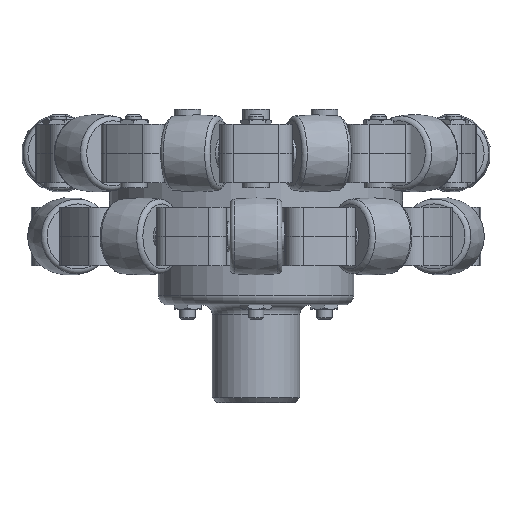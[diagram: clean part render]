
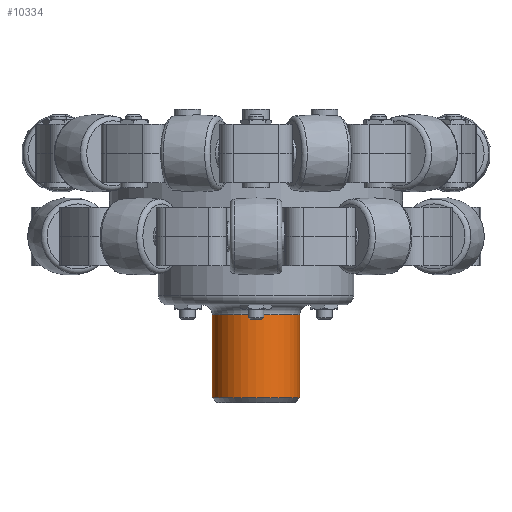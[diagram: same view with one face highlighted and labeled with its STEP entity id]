
A CAD part, front view. The second image highlights one B-rep face of the part: STEP entity #10334.
In plain terms, the highlighted cylindrical face has radius 9 mm (diameter 18 mm), a full revolution.
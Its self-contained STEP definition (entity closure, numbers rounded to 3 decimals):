
#614=CYLINDRICAL_SURFACE('',#11585,9.);
#1187=CIRCLE('',#11583,9.);
#1188=CIRCLE('',#11584,9.);
#1189=CIRCLE('',#11586,9.);
#1190=CIRCLE('',#11587,9.);
#1689=FACE_OUTER_BOUND('',#2336,.T.);
#2336=EDGE_LOOP('',(#9228,#9229,#9230,#9231,#9232,#9233));
#3264=LINE('',#17517,#4204);
#4204=VECTOR('',#14453,9.);
#5153=VERTEX_POINT('',#17510);
#5154=VERTEX_POINT('',#17512);
#5155=VERTEX_POINT('',#17516);
#5156=VERTEX_POINT('',#17518);
#6528=EDGE_CURVE('',#5153,#5154,#1187,.T.);
#6529=EDGE_CURVE('',#5154,#5153,#1188,.T.);
#6530=EDGE_CURVE('',#5154,#5155,#3264,.T.);
#6531=EDGE_CURVE('',#5156,#5155,#1189,.T.);
#6532=EDGE_CURVE('',#5155,#5156,#1190,.T.);
#9228=ORIENTED_EDGE('',*,*,#6528,.F.);
#9229=ORIENTED_EDGE('',*,*,#6529,.F.);
#9230=ORIENTED_EDGE('',*,*,#6530,.T.);
#9231=ORIENTED_EDGE('',*,*,#6531,.F.);
#9232=ORIENTED_EDGE('',*,*,#6532,.F.);
#9233=ORIENTED_EDGE('',*,*,#6530,.F.);
#10334=ADVANCED_FACE('',(#1689),#614,.T.);
#11583=AXIS2_PLACEMENT_3D('',#17513,#14447,#14448);
#11584=AXIS2_PLACEMENT_3D('',#17514,#14449,#14450);
#11585=AXIS2_PLACEMENT_3D('',#17515,#14451,#14452);
#11586=AXIS2_PLACEMENT_3D('',#17519,#14454,#14455);
#11587=AXIS2_PLACEMENT_3D('',#17520,#14456,#14457);
#14447=DIRECTION('center_axis',(0.,0.,1.));
#14448=DIRECTION('ref_axis',(-1.,0.,0.));
#14449=DIRECTION('center_axis',(0.,0.,1.));
#14450=DIRECTION('ref_axis',(-1.,0.,0.));
#14451=DIRECTION('center_axis',(0.,0.,1.));
#14452=DIRECTION('ref_axis',(1.,0.,0.));
#14453=DIRECTION('',(0.,0.,-1.));
#14454=DIRECTION('center_axis',(0.,0.,-1.));
#14455=DIRECTION('ref_axis',(-1.,0.,0.));
#14456=DIRECTION('center_axis',(0.,0.,-1.));
#14457=DIRECTION('ref_axis',(-1.,0.,0.));
#17510=CARTESIAN_POINT('',(9.,0.,27.));
#17512=CARTESIAN_POINT('',(-9.,0.,27.));
#17513=CARTESIAN_POINT('Origin',(0.,0.,27.));
#17514=CARTESIAN_POINT('Origin',(0.,0.,27.));
#17515=CARTESIAN_POINT('Origin',(0.,0.,8.));
#17516=CARTESIAN_POINT('',(-9.,0.,10.));
#17517=CARTESIAN_POINT('',(-9.,0.,8.));
#17518=CARTESIAN_POINT('',(9.,0.,10.));
#17519=CARTESIAN_POINT('Origin',(0.,0.,10.));
#17520=CARTESIAN_POINT('Origin',(0.,0.,10.));
